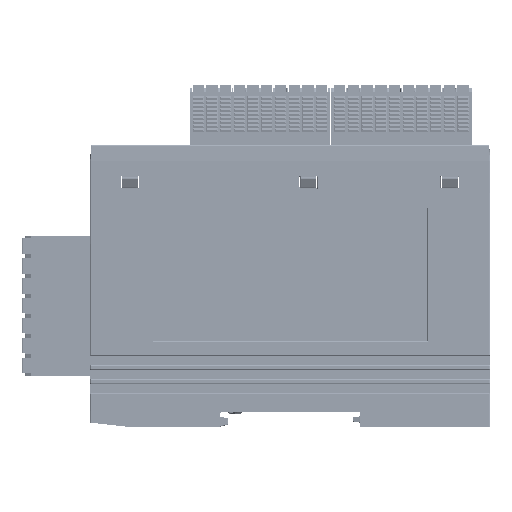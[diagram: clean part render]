
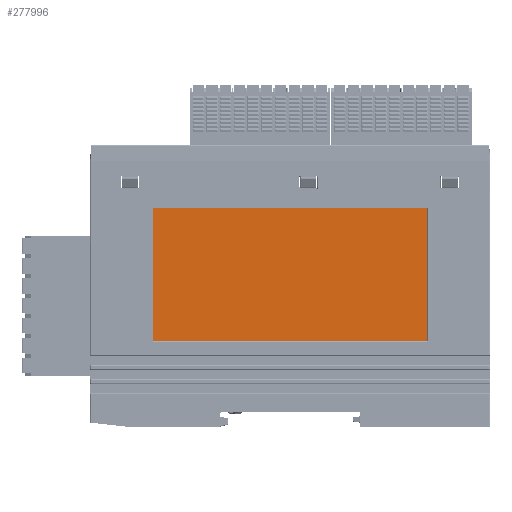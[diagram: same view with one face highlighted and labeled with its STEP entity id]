
A CAD part, left-side view. The second image highlights one B-rep face of the part: STEP entity #277996.
In plain terms, the highlighted planar face has unit normal (-1, 0, 0).
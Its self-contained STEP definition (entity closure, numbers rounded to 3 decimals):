
#100074=DIRECTION('',(0.,1.,0.));
#100075=VECTOR('',#100074,70.);
#100076=CARTESIAN_POINT('',(-12.3,-35.,-46.));
#100077=LINE('',#100076,#100075);
#100078=DIRECTION('',(0.,0.,1.));
#100079=VECTOR('',#100078,34.);
#100080=CARTESIAN_POINT('',(-12.3,35.,-46.));
#100081=LINE('',#100080,#100079);
#100082=DIRECTION('',(0.,-1.,0.));
#100083=VECTOR('',#100082,70.);
#100084=CARTESIAN_POINT('',(-12.3,35.,-12.));
#100085=LINE('',#100084,#100083);
#100086=DIRECTION('',(0.,0.,-1.));
#100087=VECTOR('',#100086,34.);
#100088=CARTESIAN_POINT('',(-12.3,-35.,-12.));
#100089=LINE('',#100088,#100087);
#102642=CARTESIAN_POINT('',(-12.3,35.,-46.));
#102643=VERTEX_POINT('',#102642);
#102644=CARTESIAN_POINT('',(-12.3,-35.,-46.));
#102645=VERTEX_POINT('',#102644);
#102646=CARTESIAN_POINT('',(-12.3,35.,-12.));
#102647=VERTEX_POINT('',#102646);
#102648=CARTESIAN_POINT('',(-12.3,-35.,-12.));
#102649=VERTEX_POINT('',#102648);
#277985=CARTESIAN_POINT('',(-12.3,0.,0.));
#277986=DIRECTION('',(-1.,0.,0.));
#277987=DIRECTION('',(0.,0.,1.));
#277988=AXIS2_PLACEMENT_3D('',#277985,#277986,#277987);
#277989=PLANE('',#277988);
#277990=ORIENTED_EDGE('',*,*,#277924,.T.);
#277991=ORIENTED_EDGE('',*,*,#277940,.T.);
#277992=ORIENTED_EDGE('',*,*,#277966,.T.);
#277993=ORIENTED_EDGE('',*,*,#277979,.T.);
#277994=EDGE_LOOP('',(#277990,#277991,#277992,#277993));
#277995=FACE_OUTER_BOUND('',#277994,.F.);
#277996=ADVANCED_FACE('',(#277995),#277989,.T.);
#277924=EDGE_CURVE('',#102645,#102643,#100077,.T.);
#277940=EDGE_CURVE('',#102643,#102647,#100081,.T.);
#277966=EDGE_CURVE('',#102647,#102649,#100085,.T.);
#277979=EDGE_CURVE('',#102649,#102645,#100089,.T.);
